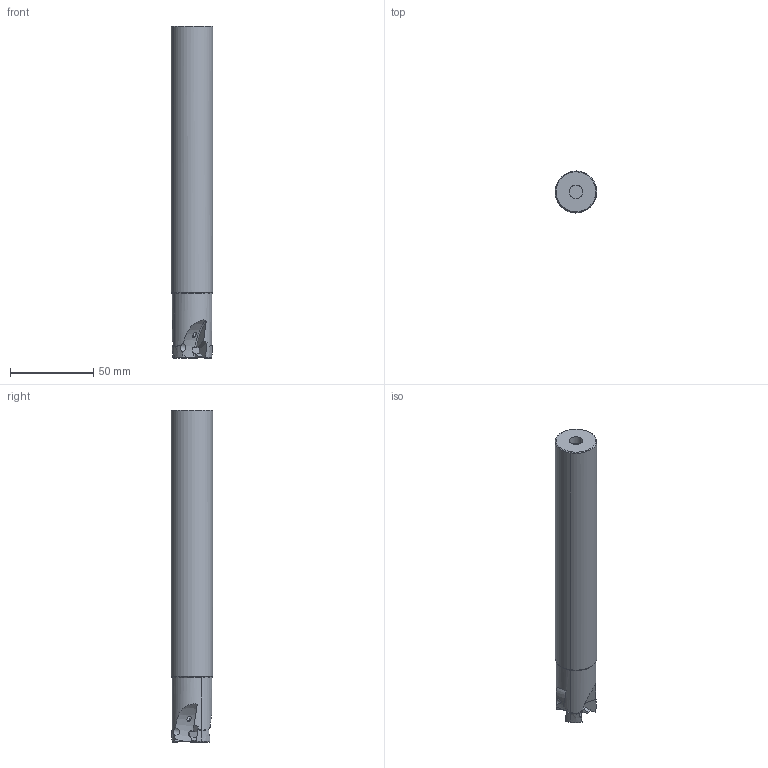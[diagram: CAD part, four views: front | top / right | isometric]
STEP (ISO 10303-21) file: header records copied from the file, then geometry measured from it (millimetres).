
FILE_DESCRIPTION(('CATIA V5 STEP','CAx-IF Rec.Pracs.--- Model Styling and Organization---1.2---2011-12-15'),'2;1');
FILE_NAME('I:\isr\design\admin8\users\weaam_s\3107037-D.stp','2015-04-12T12:37:46+00:00',('none'),('none'),'CATIA Version 5 Release 21 SP 5 (IN-10)','CATIA V5 STEP AP214','none');
FILE_SCHEMA(('AUTOMOTIVE_DESIGN { 1 0 10303 214 1 1 1 1 }'));
Length unit declared in the file: millimetre
Products named in the file (1): HM390 ETP D25-3-C25-10-B
Bounding box: 24.99 x 24.99 x 199.4 mm (x, y, z)
Volume: 92222.4 mm3; surface area: 17019.6 mm2
Topology: 1 solids, 1 shells, 106 faces, 289 edges, 189 vertices
Faces by surface type: plane 42, torus 27, cylinder 24, cone 10, revolution 3
Entity records: 3874 total; most frequent: CARTESIAN_POINT 1389, ORIENTED_EDGE 578, DIRECTION 335, EDGE_CURVE 289, VERTEX_POINT 189, AXIS2_PLACEMENT_3D 154, B_SPLINE_CURVE_WITH_KNOTS 130, EDGE_LOOP 110
